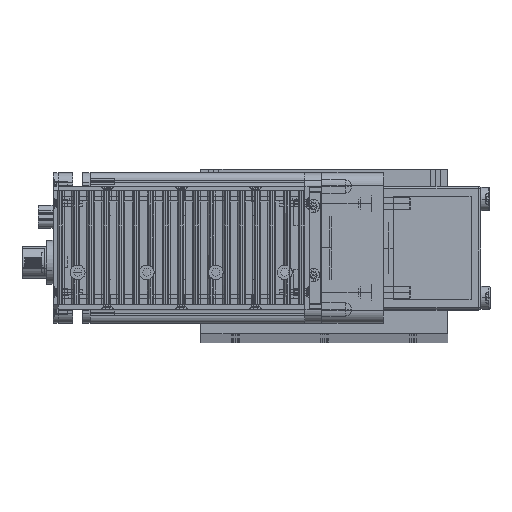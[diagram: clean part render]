
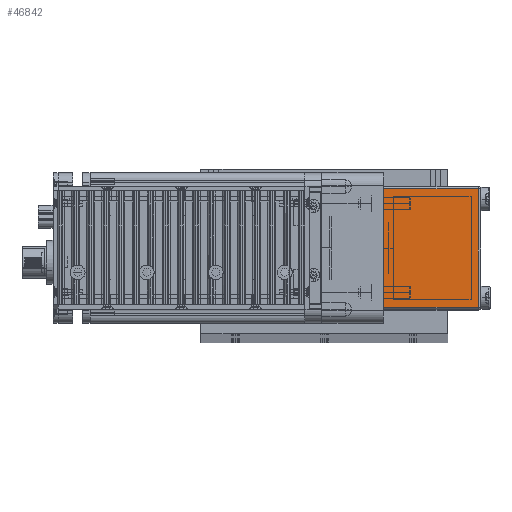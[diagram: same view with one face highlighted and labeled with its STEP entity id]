
A CAD part, top view. The second image highlights one B-rep face of the part: STEP entity #46842.
In plain terms, the highlighted planar face has unit normal (0, 0, 1) as drawn and (1, 0, 0) by its records, which use the part's own axes.
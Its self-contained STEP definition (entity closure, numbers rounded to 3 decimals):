
#9302 = VERTEX_POINT ( 'NONE', #12324 ) ;
#12324 = CARTESIAN_POINT ( 'NONE',  ( 62., 24., 0. ) ) ;
#21349 = CARTESIAN_POINT ( 'NONE',  ( 62., -24., 38.5 ) ) ;
#21391 = CARTESIAN_POINT ( 'NONE',  ( 62., 24., 38.5 ) ) ;
#23879 = DIRECTION ( 'NONE',  ( 0., 0., 1. ) ) ;
#23880 = CARTESIAN_POINT ( 'NONE',  ( 62., -24., 39.5 ) ) ;
#23927 = VECTOR ( 'NONE', #23879, 1000. ) ;
#23934 = LINE ( 'NONE', #23880, #23927 ) ;
#24875 = CARTESIAN_POINT ( 'NONE',  ( 62., -24., 0. ) ) ;
#25176 = DIRECTION ( 'NONE',  ( 0., 0., -1. ) ) ;
#25177 = VECTOR ( 'NONE', #25176, 1000. ) ;
#25178 = CARTESIAN_POINT ( 'NONE',  ( 62., 24., 39.5 ) ) ;
#25179 = LINE ( 'NONE', #25178, #25177 ) ;
#29508 = CARTESIAN_POINT ( 'NONE',  ( 62., 25., 39.5 ) ) ;
#29533 = DIRECTION ( 'NONE',  ( 0., -1., 0. ) ) ;
#29542 = AXIS2_PLACEMENT_3D ( 'NONE', #29508, #29546, #29533 ) ;
#29543 = FACE_OUTER_BOUND ( 'NONE', #47461, .T. ) ;
#29546 = DIRECTION ( 'NONE',  ( -1., 0., 0. ) ) ;
#29549 = PLANE ( 'NONE',  #29542 ) ;
#30725 = DIRECTION ( 'NONE',  ( 0., 1., 0. ) ) ;
#30726 = VECTOR ( 'NONE', #30725, 1000. ) ;
#30727 = CARTESIAN_POINT ( 'NONE',  ( 62., -25., 38.5 ) ) ;
#30728 = LINE ( 'NONE', #30727, #30726 ) ;
#30893 = DIRECTION ( 'NONE',  ( 0., 1., 0. ) ) ;
#30894 = VECTOR ( 'NONE', #30893, 1000. ) ;
#30895 = CARTESIAN_POINT ( 'NONE',  ( 62., -25., 0. ) ) ;
#30896 = LINE ( 'NONE', #30895, #30894 ) ;
#35804 = VERTEX_POINT ( 'NONE', #21349 ) ;
#36067 = VERTEX_POINT ( 'NONE', #21391 ) ;
#39298 = EDGE_CURVE ( 'NONE', #39774, #35804, #23934, .T. ) ;
#39774 = VERTEX_POINT ( 'NONE', #24875 ) ;
#39933 = EDGE_CURVE ( 'NONE', #36067, #9302, #25179, .T. ) ;
#46589 = ORIENTED_EDGE ( 'NONE', *, *, #39298, .F. ) ;
#46842 = ADVANCED_FACE ( 'NONE', ( #29543 ), #29549, .F. ) ;
#46851 = ORIENTED_EDGE ( 'NONE', *, *, #47470, .T. ) ;
#47228 = ORIENTED_EDGE ( 'NONE', *, *, #47384, .F. ) ;
#47342 = ORIENTED_EDGE ( 'NONE', *, *, #39933, .F. ) ;
#47384 = EDGE_CURVE ( 'NONE', #35804, #36067, #30728, .T. ) ;
#47461 = EDGE_LOOP ( 'NONE', ( #46589, #46851, #47342, #47228 ) ) ;
#47470 = EDGE_CURVE ( 'NONE', #39774, #9302, #30896, .T. ) ;
